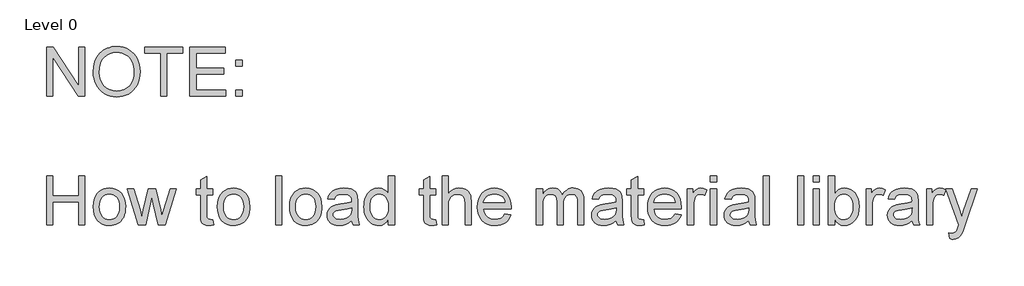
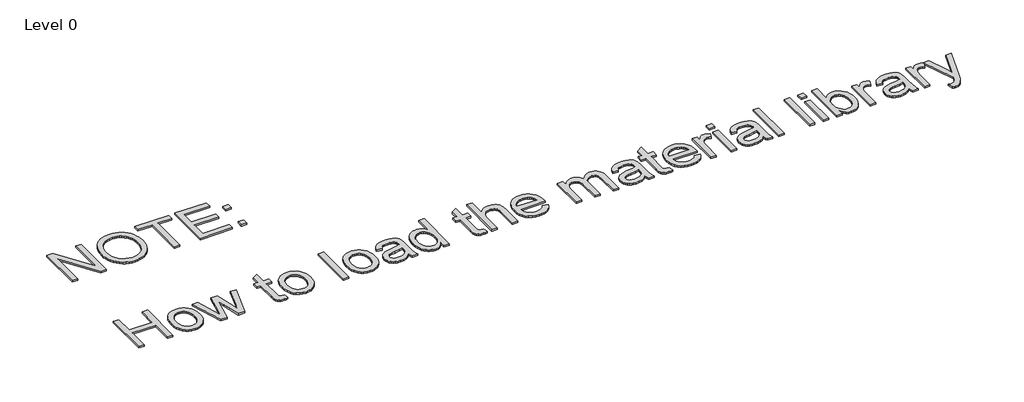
# One storey, part 6 of 6: 2 proxies.
"""IFC4 building model written with IfcOpenShell, lengths in millimetres."""

import ifcopenshell
import ifcopenshell.guid

model = None  # the IFC model being written
_history = None  # IfcOwnerHistory: only IFC2X3 demands one
_inside = {}  # id of a spatial element -> (the spatial element, [elements in it])
_under = {}  # id of a project, library or spatial element -> (it, [spatial elements below it])
_declared = {}  # id of a project -> (the project, [libraries it declares])
_typed = {}  # id of a type object -> (the type object, [elements of that type])
_made_of = {}  # id of a material, layer set ... -> (it, [elements and type objects made of it])


def new_model(schema):
    """Start an empty IFC model of exactly this schema.

    Asked for "IFC4X3", IfcOpenShell would pick the latest addendum, in which some entities
    have other attributes; the version numbers below select the first issue.
    IFC2X3 requires an IfcOwnerHistory on every rooted entity: one is made here for all.
    """
    global model, _history
    if schema == "IFC4X3":
        model = ifcopenshell.file(schema_version=(4, 3, 0, 0))
    else:
        model = ifcopenshell.file(schema=schema)
    _inside.clear()
    _under.clear()
    _declared.clear()
    _typed.clear()
    _made_of.clear()
    _history = None
    if model.schema == "IFC2X3":
        org = make("IfcOrganization", Name="unknown")
        user = make(
            "IfcPersonAndOrganization",
            ThePerson=make("IfcPerson", FamilyName="unknown"),
            TheOrganization=org,
        )
        app = make(
            "IfcApplication",
            ApplicationDeveloper=org,
            Version="unknown",
            ApplicationFullName="unknown",
            ApplicationIdentifier="unknown",
        )
        _history = make(
            "IfcOwnerHistory",
            OwningUser=user,
            OwningApplication=app,
            ChangeAction="ADDED",
            CreationDate=0,
        )
    return model


def make(cls, **values):
    """One entity of the class cls with the attributes given. An attribute that is None is left unset."""
    return model.create_entity(
        cls, **{name: value for name, value in values.items() if value is not None}
    )


def rooted(cls, **values):
    """An entity with a GlobalId (a new one), such as an element, a storey or a relation."""
    return make(cls, GlobalId=ifcopenshell.guid.new(), OwnerHistory=_history, **values)


def si_unit(unit_type, name, prefix=None):
    """IfcSIUnit, for example si_unit("LENGTHUNIT", "METRE", prefix="MILLI")."""
    return make("IfcSIUnit", UnitType=unit_type, Prefix=prefix, Name=name)


def assignment(units):
    """IfcUnitAssignment: the units of a project."""
    return None if units is None else make("IfcUnitAssignment", Units=units)


def point(xyz):
    """IfcCartesianPoint."""
    return None if xyz is None else make("IfcCartesianPoint", Coordinates=xyz)


def direction(xyz):
    """IfcDirection."""
    return None if xyz is None else make("IfcDirection", DirectionRatios=xyz)


def frame(location, z_axis=None, x_axis=None):
    """IfcAxis2Placement3D, a coordinate frame: its origin and axes. An axis left out is left unset."""
    return make(
        "IfcAxis2Placement3D",
        Location=point(location),
        Axis=direction(z_axis),
        RefDirection=direction(x_axis),
    )


def origin():
    """The frame at (0, 0, 0) with its axes left unset."""
    return frame((0.0, 0.0, 0.0))


def origin_with_axes():
    """The frame at (0, 0, 0) with the z axis (0, 0, 1) and the x axis (1, 0, 0) written out."""
    return frame((0.0, 0.0, 0.0), z_axis=(0.0, 0.0, 1.0), x_axis=(1.0, 0.0, 0.0))


def place(relative_to, where):
    """IfcLocalPlacement: puts the frame where relative to a parent placement (None: the world)."""
    return make(
        "IfcLocalPlacement", PlacementRelTo=relative_to, RelativePlacement=where
    )


def context(
    kind, dimensions, precision=None, world=None, true_north=None, identifier=None
):
    """IfcGeometricRepresentationContext, for example the 3D "Model" context."""
    return make(
        "IfcGeometricRepresentationContext",
        ContextIdentifier=identifier,
        ContextType=kind,
        CoordinateSpaceDimension=dimensions,
        Precision=precision,
        WorldCoordinateSystem=world,
        TrueNorth=true_north,
    )


def project(units=None, contexts=None):
    """IfcProject with its units and contexts."""
    return rooted(
        "IfcProject",
        Name="project",
        RepresentationContexts=contexts,
        UnitsInContext=assignment(units),
    )


def spatial(cls, under=None, at=None, **own):
    """A site, building, storey or space (cls), placed at a placement, below another one or the project."""
    s = rooted(cls, ObjectPlacement=at, **own)
    if under is not None:
        _under.setdefault(under.id(), (under, []))[1].append(s)
    return s


def polyline(points):
    """IfcPolyline through the points."""
    return make("IfcPolyline", Points=[point(p) for p in points])


def outline(outer, holes=None, kind="AREA"):
    """IfcArbitraryClosedProfileDef: a profile drawn as a closed curve; with holes, ...WithVoids."""
    if holes is None:
        return make("IfcArbitraryClosedProfileDef", ProfileType=kind, OuterCurve=outer)
    return make(
        "IfcArbitraryProfileDefWithVoids",
        ProfileType=kind,
        OuterCurve=outer,
        InnerCurves=holes,
    )


def extrude(swept, where, along, depth):
    """IfcExtrudedAreaSolid: the profile swept, set in the frame where, extruded along a direction by depth."""
    return make(
        "IfcExtrudedAreaSolid",
        SweptArea=swept,
        Position=where,
        ExtrudedDirection=direction(along),
        Depth=depth,
    )


def shape(context_of_items, identifier, shape_type, items):
    """IfcShapeRepresentation: the items that make up one representation, for example the "Body"."""
    return make(
        "IfcShapeRepresentation",
        ContextOfItems=context_of_items,
        RepresentationIdentifier=identifier,
        RepresentationType=shape_type,
        Items=items,
    )


def made_of(thing, what):
    """Note that an element or type object is made of a material, layer set ...; save() writes the relation."""
    if what is not None:
        _made_of.setdefault(what.id(), (what, []))[1].append(thing)
    return thing


def element(
    cls,
    number,
    at=None,
    inside=None,
    cuts=None,
    type_object=None,
    material=None,
    context=None,
    identifier="Body",
    shape_type=None,
    held_by="IfcProductDefinitionShape",
    body=None,
    shapes=None,
    **own,
):
    """One element of the class cls, such as IfcWall. Its Tag is "e" and its number.

    at: its placement. inside: the storey or other place that contains it. cuts: it is an
    opening in that element (IfcRelVoidsElement). A single representation is given by context,
    identifier, shape_type and body (its items); several are given by shapes. held_by: the class
    of the entity that holds the representations. save() writes the other relations.
    """
    e = rooted(cls, Tag="e%d" % number, ObjectPlacement=at, **own)
    if body is not None:
        shapes = [shape(context, identifier, shape_type, body)]
    if shapes is not None:
        e.Representation = make(held_by, Representations=shapes)
    if inside is not None:
        _inside.setdefault(inside.id(), (inside, []))[1].append(e)
    if cuts is not None:
        rooted(
            "IfcRelVoidsElement", RelatingBuildingElement=cuts, RelatedOpeningElement=e
        )
    if type_object is not None:
        _typed.setdefault(type_object.id(), (type_object, []))[1].append(e)
    return made_of(e, material)


def aggregate(whole, parts):
    """IfcRelAggregates: a whole, such as a stair, and the parts it consists of."""
    return rooted("IfcRelAggregates", RelatingObject=whole, RelatedObjects=parts)


def save(model, path):
    """Write the relations noted so far, then the file.

    IfcRelAggregates (storeys below a building ...), IfcRelContainedInSpatialStructure (elements
    in a storey), IfcRelDefinesByType, IfcRelAssociatesMaterial and IfcRelDeclares: one each for
    every whole, place, type object, material and project.
    """
    for whole, parts in _under.values():
        aggregate(whole, parts)
    for where, things in _inside.values():
        rooted(
            "IfcRelContainedInSpatialStructure",
            RelatedElements=things,
            RelatingStructure=where,
        )
    for kind, things in _typed.values():
        rooted("IfcRelDefinesByType", RelatedObjects=things, RelatingType=kind)
    for what, things in _made_of.values():
        rooted("IfcRelAssociatesMaterial", RelatedObjects=things, RelatingMaterial=what)
    for by, libraries in _declared.values():
        rooted("IfcRelDeclares", RelatingContext=by, RelatedDefinitions=libraries)
    model.write(path)


model = new_model("IFC4")

# Units and contexts
model_context = context("Model", 3, world=origin())
ifc_project = project(units=[si_unit("LENGTHUNIT", "METRE", prefix="MILLI")], contexts=[model_context])

# Site, building, storey
site = spatial("IfcSite", under=ifc_project)
building = spatial("IfcBuilding", under=site)
storey = spatial("IfcBuildingStorey", under=building, Name="Level 0", Elevation=0.0)

# Proxies
placement = place(None, origin())
element("IfcBuildingElementProxy", 1, Name="300mm Arial", ObjectType="300mm Arial", at=placement, inside=storey, context=model_context, shape_type="SweptSolid", body=[
    extrude(outline(polyline([(-63543.1557309, 96150.3631162), (-63543.1557309, 96835.9388738), (-63457.4587612, 96835.9388738), (-63457.4587612, 96557.4237223), (-63093.24664, 96557.4237223), (-63093.24664, 96835.9388738), (-63007.5496703, 96835.9388738), (-63007.5496703, 96150.3631162), (-63093.24664, 96150.3631162), (-63093.24664, 96471.7267526), (-63457.4587612, 96471.7267526), (-63457.4587612, 96150.3631162), (-63543.1557309, 96150.3631162)])), origin_with_axes(), (0.0, 0.0, 1.0), 25.0),
    extrude(outline(polyline([(-62889.716337, 96402.0979647), (-62885.0820892, 96467.3017259), (-62871.1793459, 96523.488057), (-62848.0081072, 96570.6569579), (-62832.946802, 96590.8598721), (-62815.5683729, 96608.8084287), (-62782.9089565, 96633.1931499), (-62746.860158, 96650.610808), (-62707.4219773, 96661.0614028), (-62664.5944146, 96664.5449344), (-62617.3156726, 96660.3029762), (-62574.5665678, 96647.5771018), (-62536.3471001, 96626.367311), (-62502.6572697, 96596.6736039), (-62475.1603844, 96559.5002419), (-62455.519752, 96515.8514862), (-62443.7353725, 96465.727337), (-62439.807246, 96409.1277942), (-62441.5437813, 96363.2560642), (-62446.7533871, 96322.5520958), (-62455.4360635, 96287.0158891), (-62467.5918104, 96256.6474439), (-62483.0689426, 96230.4163463), (-62501.7157747, 96207.2921823), (-62523.5323067, 96187.2749518), (-62548.5185387, 96170.364655), (-62575.7015923, 96156.9274288), (-62604.1085896, 96147.32941), (-62633.7395303, 96141.5705987), (-62664.5944146, 96139.650995), (-62712.5635863, 96143.8772616), (-62755.7102112, 96156.5560613), (-62794.0342894, 96177.6873941), (-62827.5358209, 96207.2712601), (-62854.7397966, 96244.8055286), (-62874.1712079, 96289.7880689), (-62885.8300547, 96342.2188809), (-62889.716337, 96402.0979647)]), holes=[polyline([(-62804.0193673, 96402.2653416), (-62801.540097, 96360.6983361), (-62794.1022863, 96324.7070734), (-62781.7059351, 96294.2915534), (-62764.3510434, 96269.4517762), (-62743.2406326, 96250.1563587), (-62719.5777243, 96236.3739176), (-62693.3623182, 96228.1044529), (-62664.5944146, 96225.3479647), (-62635.9729657, 96228.1201445), (-62609.8621703, 96236.4366839), (-62586.2620282, 96250.2975829), (-62565.1725396, 96269.7028416), (-62547.8176479, 96294.7884536), (-62535.4212967, 96325.6904126), (-62527.983486, 96362.4087187), (-62525.5042157, 96404.9433719), (-62527.9991776, 96445.1922844), (-62535.484063, 96480.242052), (-62547.9588722, 96510.092675), (-62565.4236049, 96534.7441531), (-62586.5915515, 96554.0395707), (-62610.176002, 96567.8220118), (-62636.1769563, 96576.0914765), (-62664.5944146, 96578.8479647), (-62693.3623182, 96576.1019375), (-62719.5777243, 96567.863856), (-62743.2406326, 96554.1337202), (-62764.3510434, 96534.91153), (-62781.7059351, 96510.1449803), (-62794.1022863, 96479.7817656), (-62801.540097, 96443.821886), (-62804.0193673, 96402.2653416)])]), origin_with_axes(), (0.0, 0.0, 1.0), 25.0),
    extrude(outline(polyline([(-62259.8770851, 96150.3631162), (-62413.026943, 96653.8328132), (-62323.9824354, 96653.8328132), (-62237.1138275, 96360.0863643), (-62211.1704089, 96255.1410518), (-62189.9135434, 96356.2366958), (-62120.7868862, 96653.8328132), (-62018.6869809, 96653.8328132), (-61949.8950775, 96357.0735802), (-61930.9814885, 96265.5184192), (-61903.8664316, 96362.094887), (-61816.8304468, 96653.8328132), (-61727.4511854, 96653.8328132), (-61881.7726816, 96150.3631162), (-61985.378979, 96150.3631162), (-62051.1580983, 96445.6159571), (-62070.2390642, 96537.6732488), (-62155.0991495, 96150.3631162), (-62259.8770851, 96150.3631162)])), origin_with_axes(), (0.0, 0.0, 1.0), 25.0),
    extrude(outline(polyline([(-61218.6254279, 96221.8330499), (-61207.9133066, 96147.8524628), (-61241.8489719, 96141.7013619), (-61272.018657, 96139.650995), (-61313.1515287, 96143.207754), (-61343.8233445, 96153.878031), (-61365.4986523, 96170.3228108), (-61379.6419998, 96191.2030783), (-61387.4250254, 96227.0635779), (-61390.0193673, 96288.4490537), (-61390.0193673, 96568.1358435), (-61454.2920945, 96568.1358435), (-61454.2920945, 96653.8328132), (-61390.0193673, 96653.8328132), (-61390.0193673, 96776.1853226), (-61304.3223976, 96826.5657677), (-61304.3223976, 96653.8328132), (-61218.6254279, 96653.8328132), (-61218.6254279, 96568.1358435), (-61304.3223976, 96568.1358435), (-61304.3223976, 96290.9597071), (-61303.1926035, 96262.7567005), (-61299.8032214, 96246.7722071), (-61293.8822638, 96237.9221538), (-61285.1577432, 96231.1224675), (-61272.7927752, 96226.7915904), (-61255.9504752, 96225.3479647), (-61218.6254279, 96221.8330499)])), origin_with_axes(), (0.0, 0.0, 1.0), 25.0),
    extrude(outline(polyline([(-61154.3527006, 96402.0979647), (-61149.7184528, 96467.3017259), (-61135.8157096, 96523.488057), (-61112.6444708, 96570.6569579), (-61097.5831656, 96590.8598721), (-61080.2047366, 96608.8084287), (-61047.5453201, 96633.1931499), (-61011.4965216, 96650.610808), (-60972.058341, 96661.0614028), (-60929.2307782, 96664.5449344), (-60881.9520362, 96660.3029762), (-60839.2029314, 96647.5771018), (-60800.9834638, 96626.367311), (-60767.2936334, 96596.6736039), (-60739.796748, 96559.5002419), (-60720.1561156, 96515.8514862), (-60708.3717362, 96465.727337), (-60704.4436097, 96409.1277942), (-60706.180145, 96363.2560642), (-60711.3897508, 96322.5520958), (-60720.0724271, 96287.0158891), (-60732.2281741, 96256.6474439), (-60747.7053062, 96230.4163463), (-60766.3521383, 96207.2921823), (-60788.1686703, 96187.2749518), (-60813.1549023, 96170.364655), (-60840.337956, 96156.9274288), (-60868.7449532, 96147.32941), (-60898.3758939, 96141.5705987), (-60929.2307782, 96139.650995), (-60977.1999499, 96143.8772616), (-61020.3465749, 96156.5560613), (-61058.6706531, 96177.6873941), (-61092.1721845, 96207.2712601), (-61119.3761603, 96244.8055286), (-61138.8075716, 96289.7880689), (-61150.4664183, 96342.2188809), (-61154.3527006, 96402.0979647)]), holes=[polyline([(-61068.6557309, 96402.2653416), (-61066.1764606, 96360.6983361), (-61058.7386499, 96324.7070734), (-61046.3422987, 96294.2915534), (-61028.987407, 96269.4517762), (-61007.8769963, 96250.1563587), (-60984.2140879, 96236.3739176), (-60957.9986819, 96228.1044529), (-60929.2307782, 96225.3479647), (-60900.6093294, 96228.1201445), (-60874.4985339, 96236.4366839), (-60850.8983919, 96250.2975829), (-60829.8089032, 96269.7028416), (-60812.4540115, 96294.7884536), (-60800.0576603, 96325.6904126), (-60792.6198496, 96362.4087187), (-60790.1405794, 96404.9433719), (-60792.6355412, 96445.1922844), (-60800.1204267, 96480.242052), (-60812.5952358, 96510.092675), (-60830.0599686, 96534.7441531), (-60851.2279151, 96554.0395707), (-60874.8123656, 96567.8220118), (-60900.81332, 96576.0914765), (-60929.2307782, 96578.8479647), (-60957.9986819, 96576.1019375), (-60984.2140879, 96567.863856), (-61007.8769963, 96554.1337202), (-61028.987407, 96534.91153), (-61046.3422987, 96510.1449803), (-61058.7386499, 96479.7817656), (-61066.1764606, 96443.821886), (-61068.6557309, 96402.2653416)])]), origin_with_axes(), (0.0, 0.0, 1.0), 25.0),
    extrude(outline(polyline([(-60340.2314885, 96150.3631162), (-60340.2314885, 96835.9388738), (-60254.5345188, 96835.9388738), (-60254.5345188, 96150.3631162), (-60340.2314885, 96150.3631162)])), origin_with_axes(), (0.0, 0.0, 1.0), 25.0),
    extrude(outline(polyline([(-60147.4133066, 96402.0979647), (-60142.7790589, 96467.3017259), (-60128.8763156, 96523.488057), (-60105.7050769, 96570.6569579), (-60090.6437717, 96590.8598721), (-60073.2653426, 96608.8084287), (-60040.6059262, 96633.1931499), (-60004.5571277, 96650.610808), (-59965.118947, 96661.0614028), (-59922.2913843, 96664.5449344), (-59875.0126423, 96660.3029762), (-59832.2635375, 96647.5771018), (-59794.0440698, 96626.367311), (-59760.3542394, 96596.6736039), (-59732.8573541, 96559.5002419), (-59713.2167217, 96515.8514862), (-59701.4323422, 96465.727337), (-59697.5042157, 96409.1277942), (-59699.240751, 96363.2560642), (-59704.4503568, 96322.5520958), (-59713.1330332, 96287.0158891), (-59725.2887801, 96256.6474439), (-59740.7659123, 96230.4163463), (-59759.4127444, 96207.2921823), (-59781.2292764, 96187.2749518), (-59806.2155084, 96170.364655), (-59833.398562, 96156.9274288), (-59861.8055593, 96147.32941), (-59891.4365, 96141.5705987), (-59922.2913843, 96139.650995), (-59970.260556, 96143.8772616), (-60013.4071809, 96156.5560613), (-60051.7312591, 96177.6873941), (-60085.2327905, 96207.2712601), (-60112.4367663, 96244.8055286), (-60131.8681776, 96289.7880689), (-60143.5270244, 96342.2188809), (-60147.4133066, 96402.0979647)]), holes=[polyline([(-60061.716337, 96402.2653416), (-60059.2370667, 96360.6983361), (-60051.799256, 96324.7070734), (-60039.4029048, 96294.2915534), (-60022.0480131, 96269.4517762), (-60000.9376023, 96250.1563587), (-59977.274694, 96236.3739176), (-59951.0592879, 96228.1044529), (-59922.2913843, 96225.3479647), (-59893.6699354, 96228.1201445), (-59867.55914, 96236.4366839), (-59843.9589979, 96250.2975829), (-59822.8695093, 96269.7028416), (-59805.5146176, 96294.7884536), (-59793.1182664, 96325.6904126), (-59785.6804557, 96362.4087187), (-59783.2011854, 96404.9433719), (-59785.6961473, 96445.1922844), (-59793.1810327, 96480.242052), (-59805.6558419, 96510.092675), (-59823.1205746, 96534.7441531), (-59844.2885212, 96554.0395707), (-59867.8729717, 96567.8220118), (-59893.873926, 96576.0914765), (-59922.2913843, 96578.8479647), (-59951.0592879, 96576.1019375), (-59977.274694, 96567.863856), (-60000.9376023, 96554.1337202), (-60022.0480131, 96534.91153), (-60039.4029048, 96510.1449803), (-60051.799256, 96479.7817656), (-60059.2370667, 96443.821886), (-60061.716337, 96402.2653416)])]), origin_with_axes(), (0.0, 0.0, 1.0), 25.0),
    extrude(outline(polyline([(-59279.7314885, 96214.6358435), (-59320.6760611, 96179.52854), (-59362.8341163, 96156.5560613), (-59407.1680711, 96143.8772616), (-59454.6403426, 96139.650995), (-59492.7970439, 96142.1930316), (-59526.2567311, 96149.8191413), (-59555.0194042, 96162.5293242), (-59579.0850633, 96180.3235802), (-59598.0875713, 96202.0721154), (-59611.6607913, 96226.6451356), (-59619.8047233, 96254.0426409), (-59622.5193673, 96284.2646314), (-59618.4186334, 96319.7903771), (-59606.1164316, 96352.0522734), (-59587.1400763, 96379.6694609), (-59563.0168815, 96401.2610802), (-59534.66742, 96417.5803274), (-59503.012265, 96429.3803984), (-59428.864301, 96442.2684192), (-59341.242497, 96455.8259476), (-59280.2336191, 96471.7267526), (-59279.7314885, 96490.8077185), (-59281.2064973, 96511.5833754), (-59285.631524, 96529.0533387), (-59293.0065684, 96543.2176084), (-59303.3316305, 96554.0761844), (-59321.1781918, 96564.9138383), (-59342.9162659, 96572.6550196), (-59368.5458528, 96577.2997284), (-59398.0669525, 96578.8479647), (-59449.1169051, 96574.7263087), (-59468.8673786, 96569.5742387), (-59484.7681835, 96562.3613406), (-59497.8340423, 96552.5227176), (-59509.0796774, 96539.4934725), (-59526.1102763, 96503.8631162), (-59611.807246, 96514.5752374), (-59596.9316246, 96561.4407677), (-59574.733264, 96598.2636844), (-59560.3702343, 96613.2543775), (-59543.1408753, 96626.4248468), (-59500.0831693, 96647.3051143), (-59447.4222141, 96660.2349794), (-59387.0200775, 96664.5449344), (-59329.0867501, 96660.7371101), (-59283.1627148, 96649.313637), (-59248.5366199, 96632.1365833), (-59224.4971135, 96611.0680168), (-59208.5544643, 96585.0199877), (-59198.2189411, 96552.9045461), (-59194.0345188, 96477.9196976), (-59194.0345188, 96371.3006162), (-59192.946569, 96278.4273622), (-59189.6827195, 96222.418869), (-59183.2387091, 96185.6168745), (-59172.6102763, 96150.3631162), (-59258.307246, 96150.3631162), (-59272.0321513, 96180.1562033), (-59279.7314885, 96214.6358435)]), holes=[polyline([(-59279.7314885, 96386.0297829), (-59337.30914, 96371.7609027), (-59417.9848029, 96359.7516105), (-59462.4442903, 96353.1820674), (-59491.7143246, 96345.8593283), (-59510.8999011, 96336.3606896), (-59525.106015, 96323.2634476), (-59533.8933019, 96307.5718638), (-59536.8223976, 96290.2901995), (-59535.2270865, 96276.9732754), (-59530.4411535, 96264.8070674), (-59511.2974212, 96243.9267999), (-59497.0442326, 96235.7985595), (-59479.8096431, 96229.9926735), (-59436.3962612, 96225.3479647), (-59390.3676154, 96230.4738821), (-59349.6950301, 96245.8516342), (-59316.721782, 96268.5102812), (-59293.7911476, 96295.4788833), (-59283.6230012, 96323.2634476), (-59280.2336191, 96361.7601333), (-59279.7314885, 96386.0297829)])]), origin_with_axes(), (0.0, 0.0, 1.0), 25.0),
    extrude(outline(polyline([(-58765.5496703, 96150.3631162), (-58765.5496703, 96231.206156), (-58791.1897182, 96191.150773), (-58822.2485931, 96162.5397852), (-58858.7262949, 96145.3731926), (-58900.6228237, 96139.650995), (-58928.9095188, 96141.7222841), (-58956.0245756, 96147.9361512), (-58981.9679941, 96158.2925966), (-59006.7397745, 96172.79162), (-59029.5657984, 96190.9990877), (-59049.6719477, 96212.480866), (-59067.0582226, 96237.2369547), (-59081.7246229, 96265.2673539), (-59093.3677781, 96296.0385497), (-59101.6843175, 96329.0170284), (-59106.6742412, 96364.2027898), (-59108.3375491, 96401.595834), (-59106.8050044, 96438.3036791), (-59102.2073703, 96473.2749888), (-59094.5446469, 96506.5097633), (-59083.8168341, 96538.0080026), (-59070.0291625, 96566.8491336), (-59053.1868625, 96592.1125835), (-59033.2899343, 96613.7983524), (-59010.3383777, 96631.9064401), (-58985.1429246, 96646.1857813), (-58958.5143069, 96656.3853108), (-58930.4525245, 96662.5050285), (-58900.9575775, 96664.5449344), (-58859.0296655, 96658.7076652), (-58821.9556835, 96641.1958577), (-58790.5306717, 96614.3527883), (-58765.5496703, 96580.5217336), (-58765.5496703, 96835.9388738), (-58679.8527006, 96835.9388738), (-58679.8527006, 96150.3631162), (-58765.5496703, 96150.3631162)]), holes=[polyline([(-59022.6405794, 96401.9305878), (-59020.2240755, 96360.3740433), (-59012.9745637, 96324.4141638), (-59000.8920442, 96294.0509491), (-58983.9765169, 96269.2843994), (-58963.776218, 96250.0622092), (-58941.8393838, 96236.3320734), (-58918.1660144, 96228.0939919), (-58892.7561097, 96225.3479647), (-58867.2259028, 96227.9684592), (-58843.6937576, 96235.8299427), (-58822.1596741, 96248.9324152), (-58802.6236523, 96267.2758766), (-58786.4037852, 96291.0067819), (-58774.8181658, 96320.2715857), (-58767.8667942, 96355.070288), (-58765.5496703, 96395.4028889), (-58767.9086384, 96439.6217721), (-58774.9855427, 96477.5430996), (-58786.7803832, 96509.1668715), (-58803.2931599, 96534.4930878), (-58823.258085, 96553.8983464), (-58845.4093708, 96567.7592455), (-58869.7470173, 96576.0757849), (-58896.2710245, 96578.8479647), (-58922.1830598, 96576.185626), (-58945.8564293, 96568.1986098), (-58967.2911328, 96554.8869162), (-58986.4871703, 96536.2505452), (-59002.3042868, 96511.8815155), (-59013.6022271, 96481.3718461), (-59020.3809913, 96444.7215368), (-59022.6405794, 96401.9305878)])]), origin_with_axes(), (0.0, 0.0, 1.0), 25.0),
    extrude(outline(polyline([(-58101.3981551, 96221.8330499), (-58090.6860339, 96147.8524628), (-58124.6216992, 96141.7013619), (-58154.7913843, 96139.650995), (-58195.924256, 96143.207754), (-58226.5960718, 96153.878031), (-58248.2713796, 96170.3228108), (-58262.4147271, 96191.2030783), (-58270.1977527, 96227.0635779), (-58272.7920945, 96288.4490537), (-58272.7920945, 96568.1358435), (-58337.0648218, 96568.1358435), (-58337.0648218, 96653.8328132), (-58272.7920945, 96653.8328132), (-58272.7920945, 96776.1853226), (-58187.0951248, 96826.5657677), (-58187.0951248, 96653.8328132), (-58101.3981551, 96653.8328132), (-58101.3981551, 96568.1358435), (-58187.0951248, 96568.1358435), (-58187.0951248, 96290.9597071), (-58185.9653308, 96262.7567005), (-58182.5759487, 96246.7722071), (-58176.6549911, 96237.9221538), (-58167.9304705, 96231.1224675), (-58155.5655024, 96226.7915904), (-58138.7232025, 96225.3479647), (-58101.3981551, 96221.8330499)])), origin_with_axes(), (0.0, 0.0, 1.0), 25.0),
    extrude(outline(polyline([(-58015.7011854, 96150.3631162), (-58015.7011854, 96835.9388738), (-57930.0042157, 96835.9388738), (-57930.0042157, 96583.8692715), (-57898.5268986, 96619.164874), (-57863.1789908, 96644.3760187), (-57823.9604924, 96659.5027055), (-57780.8714032, 96664.5449344), (-57729.1100988, 96659.042419), (-57705.9597821, 96652.1642748), (-57684.6296892, 96642.5348728), (-57665.6637949, 96630.4785059), (-57649.6060742, 96616.3194668), (-57636.4565269, 96600.0577555), (-57626.2151532, 96581.6933719), (-57618.5262772, 96560.0912915), (-57613.0342228, 96534.1164898), (-57608.6405794, 96469.0487223), (-57608.6405794, 96150.3631162), (-57694.3375491, 96150.3631162), (-57694.3375491, 96460.1777469), (-57696.0427012, 96489.1130274), (-57701.1581575, 96513.8220414), (-57709.683918, 96534.3047888), (-57721.6199828, 96550.5612696), (-57736.6839032, 96562.9366987), (-57754.5932309, 96571.7762909), (-57775.3479657, 96577.0800462), (-57798.9481078, 96578.8479647), (-57835.1642832, 96574.0777232), (-57869.1627148, 96559.7669988), (-57897.3238772, 96537.2966508), (-57916.0282451, 96508.0475386), (-57926.5102231, 96469.1742549), (-57930.0042157, 96417.8313927), (-57930.0042157, 96150.3631162), (-58015.7011854, 96150.3631162)])), origin_with_axes(), (0.0, 0.0, 1.0), 25.0),
    extrude(outline(polyline([(-57138.3115074, 96300.3328132), (-57054.2883066, 96289.620692), (-57067.171097, 96255.9674752), (-57084.5626023, 96226.3103818), (-57106.4628228, 96200.6494118), (-57132.8717584, 96178.9845651), (-57163.5174215, 96161.7761282), (-57198.1278249, 96149.4843875), (-57236.7029684, 96142.1093431), (-57279.2428521, 96139.650995), (-57332.4163991, 96143.8929532), (-57379.7945211, 96156.6188276), (-57421.3772182, 96177.8286184), (-57457.1644904, 96207.5223255), (-57485.9428551, 96244.8735255), (-57506.4988298, 96289.0557949), (-57518.8324147, 96340.0691339), (-57522.9436097, 96397.9135423), (-57518.7905705, 96457.7193988), (-57506.331453, 96510.4326593), (-57485.5662571, 96556.0533239), (-57456.4949828, 96594.5813927), (-57420.8018602, 96625.1904422), (-57380.1711191, 96647.054049), (-57334.6027598, 96660.172213), (-57284.096782, 96664.5449344), (-57235.2174985, 96660.1826741), (-57191.0143069, 96647.0958932), (-57151.4872073, 96625.2845917), (-57116.6361996, 96594.7487696), (-57088.1873582, 96556.3043893), (-57067.8667572, 96510.7674131), (-57055.6743966, 96458.137841), (-57051.6102763, 96398.415673), (-57052.112407, 96375.3176617), (-57437.24664, 96375.3176617), (-57432.282869, 96341.12047), (-57422.4128628, 96311.1704671), (-57407.6366213, 96285.4676528), (-57387.9541447, 96264.0120272), (-57364.4533827, 96247.0964998), (-57338.2222851, 96235.0139803), (-57309.2608519, 96227.7644686), (-57277.5690832, 96225.3479647), (-57231.9588796, 96229.8252966), (-57193.5458824, 96243.2572923), (-57177.0383362, 96253.5405103), (-57162.3300917, 96266.4808364), (-57138.3115074, 96300.3328132)]), holes=[polyline([(-57437.24664, 96461.0146314), (-57137.307246, 96461.0146314), (-57141.7113506, 96485.2633589), (-57148.8980959, 96506.2900812), (-57158.8674822, 96524.0947983), (-57171.6195093, 96538.6775101), (-57194.9895081, 96556.252084), (-57221.5815121, 96568.8053511), (-57251.3955214, 96576.3373113), (-57284.4315358, 96578.8479647), (-57314.5646073, 96576.8446725), (-57342.1974863, 96570.8347959), (-57367.3301731, 96560.8183349), (-57389.9626674, 96546.7952895), (-57408.9547144, 96529.4142452), (-57423.1660588, 96509.3237874), (-57432.5967006, 96486.5239161), (-57437.24664, 96461.0146314)])]), origin_with_axes(), (0.0, 0.0, 1.0), 25.0),
    extrude(outline(polyline([(-56698.1102763, 96150.3631162), (-56698.1102763, 96653.8328132), (-56612.4133066, 96653.8328132), (-56612.4133066, 96570.9812507), (-56586.637265, 96609.0385719), (-56553.49664, 96638.8525812), (-56534.4470572, 96650.0929857), (-56514.1212257, 96658.1218461), (-56492.5191453, 96662.9391623), (-56469.6408161, 96664.5449344), (-56444.6284315, 96662.9077791), (-56421.9802456, 96657.9963134), (-56401.6962582, 96649.8105372), (-56383.7764695, 96638.3504505), (-56368.2731847, 96623.940346), (-56355.2387091, 96606.9045165), (-56344.6730427, 96587.242962), (-56336.5761854, 96564.9556825), (-56305.3394726, 96608.5259802), (-56269.7091163, 96639.6476214), (-56250.2463219, 96650.5401958), (-56229.6851165, 96658.3206061), (-56208.0255004, 96662.9888523), (-56185.2674733, 96664.5449344), (-56150.9604406, 96661.9558231), (-56120.8482913, 96654.1884891), (-56094.9310253, 96641.2429324), (-56073.2086428, 96623.1191531), (-56056.0368196, 96599.6079301), (-56043.7712316, 96570.5000421), (-56036.4118788, 96535.7954893), (-56033.9587612, 96495.4942715), (-56033.9587612, 96150.3631162), (-56119.6557309, 96150.3631162), (-56119.6557309, 96458.6713548), (-56121.6433315, 96501.4152291), (-56127.6061334, 96530.224977), (-56138.778541, 96549.9545284), (-56156.3949591, 96565.4578132), (-56179.0536061, 96575.5004268), (-56205.3527006, 96578.8479647), (-56229.6380418, 96576.7034482), (-56251.7788665, 96570.2698989), (-56271.7751748, 96559.5473166), (-56289.6269667, 96544.5357014), (-56304.3090586, 96524.795689), (-56314.7962671, 96499.887915), (-56321.0885922, 96469.8123793), (-56323.1860339, 96434.5690821), (-56323.1860339, 96150.3631162), (-56408.8830036, 96150.3631162), (-56408.8830036, 96468.2118378), (-56413.8415441, 96516.6674486), (-56420.0397197, 96535.6856482), (-56428.7171655, 96551.2307772), (-56440.2190965, 96563.3132967), (-56454.8907273, 96571.9436678), (-56472.7320581, 96577.1218905), (-56493.7430888, 96578.8479647), (-56526.7581812, 96574.2451001), (-56557.1789316, 96560.4365064), (-56582.2854657, 96537.7569372), (-56599.3579089, 96506.5411465), (-56609.1494572, 96463.2323752), (-56612.4133066, 96404.2738643), (-56612.4133066, 96150.3631162), (-56698.1102763, 96150.3631162)])), origin_with_axes(), (0.0, 0.0, 1.0), 25.0),
    extrude(outline(polyline([(-55584.0496703, 96214.6358435), (-55624.994243, 96179.52854), (-55667.1522981, 96156.5560613), (-55711.4862529, 96143.8772616), (-55758.9585245, 96139.650995), (-55797.1152257, 96142.1930316), (-55830.5749129, 96149.8191413), (-55859.3375861, 96162.5293242), (-55883.4032451, 96180.3235802), (-55902.4057531, 96202.0721154), (-55915.9789731, 96226.6451356), (-55924.1229051, 96254.0426409), (-55926.8375491, 96284.2646314), (-55922.7368152, 96319.7903771), (-55910.4346135, 96352.0522734), (-55891.4582581, 96379.6694609), (-55867.3350633, 96401.2610802), (-55838.9856019, 96417.5803274), (-55807.3304468, 96429.3803984), (-55733.1824828, 96442.2684192), (-55645.5606788, 96455.8259476), (-55584.551801, 96471.7267526), (-55584.0496703, 96490.8077185), (-55585.5246792, 96511.5833754), (-55589.9497058, 96529.0533387), (-55597.3247502, 96543.2176084), (-55607.6498123, 96554.0761844), (-55625.4963736, 96564.9138383), (-55647.2344477, 96572.6550196), (-55672.8640346, 96577.2997284), (-55702.3851343, 96578.8479647), (-55753.435087, 96574.7263087), (-55773.1855604, 96569.5742387), (-55789.0863654, 96562.3613406), (-55802.1522241, 96552.5227176), (-55813.3978592, 96539.4934725), (-55830.4284582, 96503.8631162), (-55916.1254279, 96514.5752374), (-55901.2498064, 96561.4407677), (-55879.0514459, 96598.2636844), (-55864.6884161, 96613.2543775), (-55847.4590571, 96626.4248468), (-55804.4013512, 96647.3051143), (-55751.7403959, 96660.2349794), (-55691.3382593, 96664.5449344), (-55633.4049319, 96660.7371101), (-55587.4808966, 96649.313637), (-55552.8548017, 96632.1365833), (-55528.8152953, 96611.0680168), (-55512.8726461, 96585.0199877), (-55502.5371229, 96552.9045461), (-55498.3527006, 96477.9196976), (-55498.3527006, 96371.3006162), (-55497.2647508, 96278.4273622), (-55494.0009013, 96222.418869), (-55487.5568909, 96185.6168745), (-55476.9284582, 96150.3631162), (-55562.6254279, 96150.3631162), (-55576.3503332, 96180.1562033), (-55584.0496703, 96214.6358435)]), holes=[polyline([(-55584.0496703, 96386.0297829), (-55641.6273218, 96371.7609027), (-55722.3029847, 96359.7516105), (-55766.7624721, 96353.1820674), (-55796.0325065, 96345.8593283), (-55815.2180829, 96336.3606896), (-55829.4241968, 96323.2634476), (-55838.2114837, 96307.5718638), (-55841.1405794, 96290.2901995), (-55839.5452684, 96276.9732754), (-55834.7593353, 96264.8070674), (-55815.615603, 96243.9267999), (-55801.3624144, 96235.7985595), (-55784.1278249, 96229.9926735), (-55740.714443, 96225.3479647), (-55694.6857972, 96230.4738821), (-55654.013212, 96245.8516342), (-55621.0399638, 96268.5102812), (-55598.1093294, 96295.4788833), (-55587.9411831, 96323.2634476), (-55584.551801, 96361.7601333), (-55584.0496703, 96386.0297829)])]), origin_with_axes(), (0.0, 0.0, 1.0), 25.0),
    extrude(outline(polyline([(-55198.4133066, 96221.8330499), (-55187.7011854, 96147.8524628), (-55221.6368507, 96141.7013619), (-55251.8065358, 96139.650995), (-55292.9394075, 96143.207754), (-55323.6112233, 96153.878031), (-55345.2865311, 96170.3228108), (-55359.4298786, 96191.2030783), (-55367.2129042, 96227.0635779), (-55369.807246, 96288.4490537), (-55369.807246, 96568.1358435), (-55434.0799733, 96568.1358435), (-55434.0799733, 96653.8328132), (-55369.807246, 96653.8328132), (-55369.807246, 96776.1853226), (-55284.1102763, 96826.5657677), (-55284.1102763, 96653.8328132), (-55198.4133066, 96653.8328132), (-55198.4133066, 96568.1358435), (-55284.1102763, 96568.1358435), (-55284.1102763, 96290.9597071), (-55282.9804823, 96262.7567005), (-55279.5911002, 96246.7722071), (-55273.6701426, 96237.9221538), (-55264.945622, 96231.1224675), (-55252.5806539, 96226.7915904), (-55235.738354, 96225.3479647), (-55198.4133066, 96221.8330499)])), origin_with_axes(), (0.0, 0.0, 1.0), 25.0),
    extrude(outline(polyline([(-54760.2205983, 96300.3328132), (-54676.1973976, 96289.620692), (-54689.0801879, 96255.9674752), (-54706.4716932, 96226.3103818), (-54728.3719137, 96200.6494118), (-54754.7808493, 96178.9845651), (-54785.4265124, 96161.7761282), (-54820.0369158, 96149.4843875), (-54858.6120593, 96142.1093431), (-54901.151943, 96139.650995), (-54954.32549, 96143.8929532), (-55001.703612, 96156.6188276), (-55043.2863091, 96177.8286184), (-55079.0735813, 96207.5223255), (-55107.851946, 96244.8735255), (-55128.4079208, 96289.0557949), (-55140.7415056, 96340.0691339), (-55144.8527006, 96397.9135423), (-55140.6996614, 96457.7193988), (-55128.2405439, 96510.4326593), (-55107.475348, 96556.0533239), (-55078.4040737, 96594.5813927), (-55042.7109511, 96625.1904422), (-55002.0802101, 96647.054049), (-54956.5118507, 96660.172213), (-54906.0058729, 96664.5449344), (-54857.1265894, 96660.1826741), (-54812.9233978, 96647.0958932), (-54773.3962982, 96625.2845917), (-54738.5452905, 96594.7487696), (-54710.0964491, 96556.3043893), (-54689.7758481, 96510.7674131), (-54677.5834875, 96458.137841), (-54673.5193673, 96398.415673), (-54674.0214979, 96375.3176617), (-55059.1557309, 96375.3176617), (-55054.1919599, 96341.12047), (-55044.3219537, 96311.1704671), (-55029.5457122, 96285.4676528), (-55009.8632356, 96264.0120272), (-54986.3624736, 96247.0964998), (-54960.131376, 96235.0139803), (-54931.1699428, 96227.7644686), (-54899.4781741, 96225.3479647), (-54853.8679705, 96229.8252966), (-54815.4549733, 96243.2572923), (-54798.9474271, 96253.5405103), (-54784.2391826, 96266.4808364), (-54760.2205983, 96300.3328132)]), holes=[polyline([(-55059.1557309, 96461.0146314), (-54759.216337, 96461.0146314), (-54763.6204415, 96485.2633589), (-54770.8071869, 96506.2900812), (-54780.7765731, 96524.0947983), (-54793.5286002, 96538.6775101), (-54816.898599, 96556.252084), (-54843.490603, 96568.8053511), (-54873.3046123, 96576.3373113), (-54906.3406267, 96578.8479647), (-54936.4736982, 96576.8446725), (-54964.1065772, 96570.8347959), (-54989.239264, 96560.8183349), (-55011.8717584, 96546.7952895), (-55030.8638053, 96529.4142452), (-55045.0751497, 96509.3237874), (-55054.5057916, 96486.5239161), (-55059.1557309, 96461.0146314)])]), origin_with_axes(), (0.0, 0.0, 1.0), 25.0),
    extrude(outline(polyline([(-54587.8223976, 96150.3631162), (-54587.8223976, 96653.8328132), (-54512.8375491, 96653.8328132), (-54512.8375491, 96579.3500954), (-54485.1366731, 96622.533334), (-54459.6116968, 96647.9746219), (-54434.003032, 96660.4023563), (-54406.0510907, 96664.5449344), (-54384.7942252, 96662.8920876), (-54363.3699828, 96657.9335471), (-54320.0193673, 96638.0993851), (-54348.6408161, 96561.2733908), (-54378.768657, 96574.4543212), (-54408.8964979, 96578.8479647), (-54434.4842406, 96574.6216981), (-54457.3521087, 96561.9428984), (-54475.8263334, 96541.7739827), (-54488.2331457, 96515.0773681), (-54498.6523573, 96467.2075764), (-54502.1254279, 96414.9859855), (-54502.1254279, 96150.3631162), (-54587.8223976, 96150.3631162)])), origin_with_axes(), (0.0, 0.0, 1.0), 25.0),
    extrude(outline(polyline([(-54266.4587612, 96150.3631162), (-54266.4587612, 96653.8328132), (-54180.7617915, 96653.8328132), (-54180.7617915, 96150.3631162), (-54266.4587612, 96150.3631162)])), origin_with_axes(), (0.0, 0.0, 1.0), 25.0),
    extrude(outline(polyline([(-54266.4587612, 96750.2419041), (-54266.4587612, 96835.9388738), (-54180.7617915, 96835.9388738), (-54180.7617915, 96750.2419041), (-54266.4587612, 96750.2419041)])), origin_with_axes(), (0.0, 0.0, 1.0), 25.0),
    extrude(outline(polyline([(-53730.8527006, 96214.6358435), (-53771.7972733, 96179.52854), (-53813.9553284, 96156.5560613), (-53858.2892832, 96143.8772616), (-53905.7615548, 96139.650995), (-53943.918256, 96142.1930316), (-53977.3779432, 96149.8191413), (-54006.1406164, 96162.5293242), (-54030.2062754, 96180.3235802), (-54049.2087834, 96202.0721154), (-54062.7820034, 96226.6451356), (-54070.9259354, 96254.0426409), (-54073.6405794, 96284.2646314), (-54069.5398455, 96319.7903771), (-54057.2376438, 96352.0522734), (-54038.2612884, 96379.6694609), (-54014.1380936, 96401.2610802), (-53985.7886322, 96417.5803274), (-53954.1334771, 96429.3803984), (-53879.9855131, 96442.2684192), (-53792.3637091, 96455.8259476), (-53731.3548313, 96471.7267526), (-53730.8527006, 96490.8077185), (-53732.3277095, 96511.5833754), (-53736.7527361, 96529.0533387), (-53744.1277805, 96543.2176084), (-53754.4528426, 96554.0761844), (-53772.2994039, 96564.9138383), (-53794.037478, 96572.6550196), (-53819.6670649, 96577.2997284), (-53849.1881646, 96578.8479647), (-53900.2381173, 96574.7263087), (-53919.9885907, 96569.5742387), (-53935.8893957, 96562.3613406), (-53948.9552544, 96552.5227176), (-53960.2008895, 96539.4934725), (-53977.2314885, 96503.8631162), (-54062.9284582, 96514.5752374), (-54048.0528367, 96561.4407677), (-54025.8544762, 96598.2636844), (-54011.4914464, 96613.2543775), (-53994.2620874, 96626.4248468), (-53951.2043815, 96647.3051143), (-53898.5434262, 96660.2349794), (-53838.1412896, 96664.5449344), (-53780.2079622, 96660.7371101), (-53734.2839269, 96649.313637), (-53699.657832, 96632.1365833), (-53675.6183256, 96611.0680168), (-53659.6756764, 96585.0199877), (-53649.3401532, 96552.9045461), (-53645.1557309, 96477.9196976), (-53645.1557309, 96371.3006162), (-53644.0677811, 96278.4273622), (-53640.8039316, 96222.418869), (-53634.3599212, 96185.6168745), (-53623.7314885, 96150.3631162), (-53709.4284582, 96150.3631162), (-53723.1533635, 96180.1562033), (-53730.8527006, 96214.6358435)]), holes=[polyline([(-53730.8527006, 96386.0297829), (-53788.4303521, 96371.7609027), (-53869.106015, 96359.7516105), (-53913.5655024, 96353.1820674), (-53942.8355368, 96345.8593283), (-53962.0211132, 96336.3606896), (-53976.2272271, 96323.2634476), (-53985.014514, 96307.5718638), (-53987.9436097, 96290.2901995), (-53986.3482987, 96276.9732754), (-53981.5623656, 96264.8070674), (-53962.4186334, 96243.9267999), (-53948.1654447, 96235.7985595), (-53930.9308552, 96229.9926735), (-53887.5174733, 96225.3479647), (-53841.4888275, 96230.4738821), (-53800.8162423, 96245.8516342), (-53767.8429941, 96268.5102812), (-53744.9123597, 96295.4788833), (-53734.7442134, 96323.2634476), (-53731.3548313, 96361.7601333), (-53730.8527006, 96386.0297829)])]), origin_with_axes(), (0.0, 0.0, 1.0), 25.0),
    extrude(outline(polyline([(-53527.3223976, 96150.3631162), (-53527.3223976, 96835.9388738), (-53441.6254279, 96835.9388738), (-53441.6254279, 96150.3631162), (-53527.3223976, 96150.3631162)])), origin_with_axes(), (0.0, 0.0, 1.0), 25.0),
    extrude(outline(polyline([(-53045.276943, 96150.3631162), (-53045.276943, 96835.9388738), (-52959.5799733, 96835.9388738), (-52959.5799733, 96150.3631162), (-53045.276943, 96150.3631162)])), origin_with_axes(), (0.0, 0.0, 1.0), 25.0),
    extrude(outline(polyline([(-52831.0345188, 96150.3631162), (-52831.0345188, 96653.8328132), (-52745.3375491, 96653.8328132), (-52745.3375491, 96150.3631162), (-52831.0345188, 96150.3631162)])), origin_with_axes(), (0.0, 0.0, 1.0), 25.0),
    extrude(outline(polyline([(-52831.0345188, 96750.2419041), (-52831.0345188, 96835.9388738), (-52745.3375491, 96835.9388738), (-52745.3375491, 96750.2419041), (-52831.0345188, 96750.2419041)])), origin_with_axes(), (0.0, 0.0, 1.0), 25.0),
    extrude(outline(polyline([(-52531.0951248, 96150.3631162), (-52616.7920945, 96150.3631162), (-52616.7920945, 96835.9388738), (-52531.0951248, 96835.9388738), (-52531.0951248, 96581.6933719), (-52502.9130403, 96617.9409305), (-52471.0905084, 96643.8320438), (-52435.6275289, 96659.3667117), (-52396.5241021, 96664.5449344), (-52352.3784463, 96659.8793035), (-52310.6597555, 96645.8824107), (-52273.7531504, 96623.4329848), (-52244.0437517, 96593.4097545), (-52220.7574414, 96556.1056292), (-52203.1201012, 96511.8135187), (-52192.0104598, 96462.3745686), (-52188.307246, 96409.6299249), (-52192.141223, 96348.7675019), (-52203.6431539, 96295.2278179), (-52222.8130388, 96249.0108731), (-52249.6508777, 96210.1166673), (-52281.8656992, 96179.2879357), (-52317.1665323, 96157.2674131), (-52355.5533768, 96144.0550995), (-52397.0262328, 96139.650995), (-52437.4163695, 96145.3313483), (-52473.2245637, 96162.3724083), (-52504.4508155, 96190.774175), (-52531.0951248, 96230.5366484), (-52531.0951248, 96150.3631162)]), holes=[polyline([(-52531.0951248, 96405.6128795), (-52529.630577, 96366.9906612), (-52525.2369335, 96334.1429458), (-52517.9141944, 96307.0697332), (-52507.6623597, 96285.7710234), (-52486.8971638, 96259.3359352), (-52462.7635079, 96240.4537294), (-52435.261392, 96229.1244059), (-52404.3908161, 96225.3479647), (-52378.7612292, 96228.1306056), (-52354.930944, 96236.4785281), (-52332.8999603, 96250.3917324), (-52312.6682782, 96269.8702185), (-52295.7527509, 96294.861681), (-52283.6702314, 96325.3138146), (-52276.4207196, 96361.2266194), (-52274.0042157, 96402.6000954), (-52276.3213396, 96444.7581505), (-52283.2727112, 96481.0161702), (-52294.8583306, 96511.3741543), (-52311.0781977, 96535.8321029), (-52330.5828364, 96554.6515425), (-52352.0227704, 96568.0939993), (-52375.3979998, 96576.1594733), (-52400.7085245, 96578.8479647), (-52426.3381113, 96576.0653238), (-52450.1683966, 96567.7174012), (-52472.1993803, 96553.8041969), (-52492.4310623, 96534.3257109), (-52509.3465897, 96509.5853138), (-52521.4291092, 96479.8863762), (-52528.6786209, 96445.228898), (-52531.0951248, 96405.6128795)])]), origin_with_axes(), (0.0, 0.0, 1.0), 25.0),
    extrude(outline(polyline([(-52091.8981551, 96150.3631162), (-52091.8981551, 96653.8328132), (-52016.9133066, 96653.8328132), (-52016.9133066, 96579.3500954), (-51989.2124307, 96622.533334), (-51963.6874544, 96647.9746219), (-51938.0787896, 96660.4023563), (-51910.1268483, 96664.5449344), (-51888.8699828, 96662.8920876), (-51867.4457404, 96657.9335471), (-51824.0951248, 96638.0993851), (-51852.7165737, 96561.2733908), (-51882.8444146, 96574.4543212), (-51912.9722555, 96578.8479647), (-51938.5599982, 96574.6216981), (-51961.4278663, 96561.9428984), (-51979.902091, 96541.7739827), (-51992.3089032, 96515.0773681), (-52002.7281149, 96467.2075764), (-52006.2011854, 96414.9859855), (-52006.2011854, 96150.3631162), (-52091.8981551, 96150.3631162)])), origin_with_axes(), (0.0, 0.0, 1.0), 25.0),
    extrude(outline(polyline([(-51449.1708824, 96214.6358435), (-51490.1154551, 96179.52854), (-51532.2735102, 96156.5560613), (-51576.607465, 96143.8772616), (-51624.0797366, 96139.650995), (-51662.2364379, 96142.1930316), (-51695.6961251, 96149.8191413), (-51724.4587982, 96162.5293242), (-51748.5244572, 96180.3235802), (-51767.5269652, 96202.0721154), (-51781.1001852, 96226.6451356), (-51789.2441172, 96254.0426409), (-51791.9587612, 96284.2646314), (-51787.8580273, 96319.7903771), (-51775.5558256, 96352.0522734), (-51756.5794702, 96379.6694609), (-51732.4562754, 96401.2610802), (-51704.106814, 96417.5803274), (-51672.4516589, 96429.3803984), (-51598.3036949, 96442.2684192), (-51510.6818909, 96455.8259476), (-51449.6730131, 96471.7267526), (-51449.1708824, 96490.8077185), (-51450.6458913, 96511.5833754), (-51455.0709179, 96529.0533387), (-51462.4459623, 96543.2176084), (-51472.7710245, 96554.0761844), (-51490.6175858, 96564.9138383), (-51512.3556599, 96572.6550196), (-51537.9852468, 96577.2997284), (-51567.5063464, 96578.8479647), (-51618.5562991, 96574.7263087), (-51638.3067726, 96569.5742387), (-51654.2075775, 96562.3613406), (-51667.2734363, 96552.5227176), (-51678.5190713, 96539.4934725), (-51695.5496703, 96503.8631162), (-51781.24664, 96514.5752374), (-51766.3710185, 96561.4407677), (-51744.172658, 96598.2636844), (-51729.8096283, 96613.2543775), (-51712.5802692, 96626.4248468), (-51669.5225633, 96647.3051143), (-51616.861608, 96660.2349794), (-51556.4594714, 96664.5449344), (-51498.526144, 96660.7371101), (-51452.6021087, 96649.313637), (-51417.9760138, 96632.1365833), (-51393.9365074, 96611.0680168), (-51377.9938583, 96585.0199877), (-51367.6583351, 96552.9045461), (-51363.4739127, 96477.9196976), (-51363.4739127, 96371.3006162), (-51362.3859629, 96278.4273622), (-51359.1221135, 96222.418869), (-51352.678103, 96185.6168745), (-51342.0496703, 96150.3631162), (-51427.74664, 96150.3631162), (-51441.4715453, 96180.1562033), (-51449.1708824, 96214.6358435)]), holes=[polyline([(-51449.1708824, 96386.0297829), (-51506.7485339, 96371.7609027), (-51587.4241968, 96359.7516105), (-51631.8836843, 96353.1820674), (-51661.1537186, 96345.8593283), (-51680.339295, 96336.3606896), (-51694.5454089, 96323.2634476), (-51703.3326959, 96307.5718638), (-51706.2617915, 96290.2901995), (-51704.6664805, 96276.9732754), (-51699.8805474, 96264.8070674), (-51680.7368152, 96243.9267999), (-51666.4836265, 96235.7985595), (-51649.249037, 96229.9926735), (-51605.8356551, 96225.3479647), (-51559.8070093, 96230.4738821), (-51519.1344241, 96245.8516342), (-51486.161176, 96268.5102812), (-51463.2305415, 96295.4788833), (-51453.0623952, 96323.2634476), (-51449.6730131, 96361.7601333), (-51449.1708824, 96386.0297829)])]), origin_with_axes(), (0.0, 0.0, 1.0), 25.0),
    extrude(outline(polyline([(-51245.6405794, 96150.3631162), (-51245.6405794, 96653.8328132), (-51170.6557309, 96653.8328132), (-51170.6557309, 96579.3500954), (-51142.9548549, 96622.533334), (-51117.4298786, 96647.9746219), (-51091.8212138, 96660.4023563), (-51063.8692726, 96664.5449344), (-51042.612407, 96662.8920876), (-51021.1881646, 96657.9335471), (-50977.8375491, 96638.0993851), (-51006.4589979, 96561.2733908), (-51036.5868388, 96574.4543212), (-51066.7146798, 96578.8479647), (-51092.3024224, 96574.6216981), (-51115.1702905, 96561.9428984), (-51133.6445152, 96541.7739827), (-51146.0513275, 96515.0773681), (-51156.4705391, 96467.2075764), (-51159.9436097, 96414.9859855), (-51159.9436097, 96150.3631162), (-51245.6405794, 96150.3631162)])), origin_with_axes(), (0.0, 0.0, 1.0), 25.0),
    extrude(outline(polyline([(-50924.276943, 95957.5449344), (-50934.9890642, 96040.0617431), (-50891.4710718, 96032.5297829), (-50868.5822816, 96034.8939815), (-50850.7984866, 96041.9865774), (-50836.9480486, 96053.3054398), (-50825.8593294, 96068.3484382), (-50802.4265642, 96131.4495272), (-50795.7314885, 96152.204262), (-50977.8375491, 96653.8328132), (-50887.4540263, 96653.8328132), (-50790.8775585, 96374.3134003), (-50757.2348029, 96262.5056351), (-50723.5920472, 96361.2580026), (-50624.3375491, 96653.8328132), (-50534.6235339, 96653.8328132), (-50709.8671419, 96138.3119798), (-50735.8942489, 96069.7711418), (-50755.393657, 96026.5042147), (-50778.7008895, 95990.8110921), (-50805.1045945, 95966.081156), (-50835.7764103, 95951.6448989), (-50871.8879752, 95946.8328132), (-50896.7015997, 95949.5108435), (-50924.276943, 95957.5449344)])), origin_with_axes(), (0.0, 0.0, 1.0), 25.0),
])
element("IfcBuildingElementProxy", 2, Name="300mm Arial", ObjectType="300mm Arial", at=placement, inside=storey, context=model_context, shape_type="SweptSolid", body=[
    extrude(outline(polyline([(-63543.1557309, 97950.3631162), (-63543.1557309, 98635.9388738), (-63451.433193, 98635.9388738), (-63093.24664, 98092.8008529), (-63093.24664, 98635.9388738), (-63007.5496703, 98635.9388738), (-63007.5496703, 97950.3631162), (-63099.2722082, 97950.3631162), (-63457.4587612, 98493.6685139), (-63457.4587612, 97950.3631162), (-63543.1557309, 97950.3631162)])), origin_with_axes(), (0.0, 0.0, 1.0), 25.0),
    extrude(outline(polyline([(-62889.716337, 98284.1126427), (-62884.0046004, 98364.5267792), (-62876.8649298, 98401.2738532), (-62866.8693909, 98435.7142644), (-62854.0179838, 98467.8480128), (-62838.3107084, 98497.6750983), (-62819.7475648, 98525.1955211), (-62798.3285529, 98550.409281), (-62774.6525682, 98572.9659327), (-62749.3185061, 98592.5150309), (-62722.3263667, 98609.0565755), (-62693.6761499, 98622.5905665), (-62663.3678558, 98633.117004), (-62631.4014843, 98640.6358879), (-62562.4945093, 98646.650995), (-62516.371714, 98643.8265099), (-62472.571273, 98635.3530547), (-62431.0931865, 98621.2306292), (-62391.9374544, 98601.4592336), (-62356.2024875, 98576.635148), (-62324.9866968, 98547.3546527), (-62298.2900822, 98513.6177475), (-62276.1126438, 98475.4244325), (-62258.6845247, 98433.6429753), (-62246.2358682, 98389.1416437), (-62238.7666743, 98341.9204375), (-62236.276943, 98291.9793567), (-62238.8974375, 98241.3792295), (-62246.758921, 98193.5198989), (-62259.8613935, 98148.4013649), (-62278.2048549, 98106.0236276), (-62301.3551716, 98067.5060199), (-62328.8782096, 98033.9678747), (-62360.7739689, 98005.4091922), (-62397.0424496, 97981.8299723), (-62436.2557176, 97963.3766697), (-62476.9858386, 97950.1957393), (-62519.2328127, 97942.2871811), (-62562.99664, 97939.650995), (-62609.9249366, 97942.5643991), (-62654.3007356, 97951.3046112), (-62696.124037, 97965.8716315), (-62735.3948407, 97986.26546), (-62771.0879634, 98011.6962868), (-62802.1782214, 98041.3743023), (-62828.6656149, 98075.2995065), (-62850.5501438, 98113.4718994), (-62867.6853533, 98154.3589362), (-62879.9247887, 98196.4280724), (-62887.2684499, 98239.6793079), (-62889.716337, 98284.1126427)]), holes=[polyline([(-62804.0193673, 98283.2757583), (-62799.7355649, 98226.4617638), (-62786.8841577, 98176.0290135), (-62765.4651458, 98131.9775072), (-62735.4785292, 98094.307245), (-62699.02698, 98064.1375599), (-62658.2131705, 98042.5877848), (-62613.0371007, 98029.6579197), (-62563.4987707, 98025.3479647), (-62513.1130951, 98029.6997639), (-62467.4035114, 98042.7551617), (-62426.3700198, 98064.5141579), (-62390.0126201, 98094.9767526), (-62360.2456856, 98133.442055), (-62338.9835896, 98179.2091744), (-62326.2263319, 98232.2781109), (-62321.9739127, 98292.6488643), (-62323.7941364, 98331.8673628), (-62329.2548076, 98368.5124415), (-62338.3559262, 98402.5841005), (-62351.0974923, 98434.0823397), (-62367.3382815, 98462.5939475), (-62386.9370697, 98487.7057121), (-62409.8938568, 98509.4176335), (-62436.2086428, 98527.7297119), (-62465.0654654, 98542.265349), (-62495.6483623, 98552.6479469), (-62527.9573333, 98558.8775057), (-62561.9923786, 98560.9540253), (-62609.809865, 98556.9526714), (-62654.175203, 98544.9486098), (-62695.0883925, 98524.9418405), (-62732.5494335, 98496.9323634), (-62749.3001993, 98479.5892404), (-62763.8175295, 98459.5707023), (-62786.1518838, 98411.5073811), (-62799.5524964, 98352.7423998), (-62804.0193673, 98283.2757583)])]), origin_with_axes(), (0.0, 0.0, 1.0), 25.0),
    extrude(outline(polyline([(-61947.0496703, 97950.3631162), (-61947.0496703, 98550.2419041), (-62172.0042157, 98550.2419041), (-62172.0042157, 98635.9388738), (-61636.3981551, 98635.9388738), (-61636.3981551, 98550.2419041), (-61861.3527006, 98550.2419041), (-61861.3527006, 97950.3631162), (-61947.0496703, 97950.3631162)])), origin_with_axes(), (0.0, 0.0, 1.0), 25.0),
    extrude(outline(polyline([(-61539.9890642, 97950.3631162), (-61539.9890642, 98635.9388738), (-61047.2314885, 98635.9388738), (-61047.2314885, 98550.2419041), (-61454.2920945, 98550.2419041), (-61454.2920945, 98346.7116011), (-61068.6557309, 98346.7116011), (-61068.6557309, 98261.0146314), (-61454.2920945, 98261.0146314), (-61454.2920945, 98036.0600859), (-61036.5193673, 98036.0600859), (-61036.5193673, 97950.3631162), (-61539.9890642, 97950.3631162)])), origin_with_axes(), (0.0, 0.0, 1.0), 25.0),
    extrude(outline(polyline([(-60897.2617915, 98368.1358435), (-60897.2617915, 98453.8328132), (-60811.5648218, 98453.8328132), (-60811.5648218, 98368.1358435), (-60897.2617915, 98368.1358435)])), origin_with_axes(), (0.0, 0.0, 1.0), 25.0),
    extrude(outline(polyline([(-60897.2617915, 97950.3631162), (-60897.2617915, 98036.0600859), (-60811.5648218, 98036.0600859), (-60811.5648218, 97950.3631162), (-60897.2617915, 97950.3631162)])), origin_with_axes(), (0.0, 0.0, 1.0), 25.0),
])

save(model, "model.ifc")
